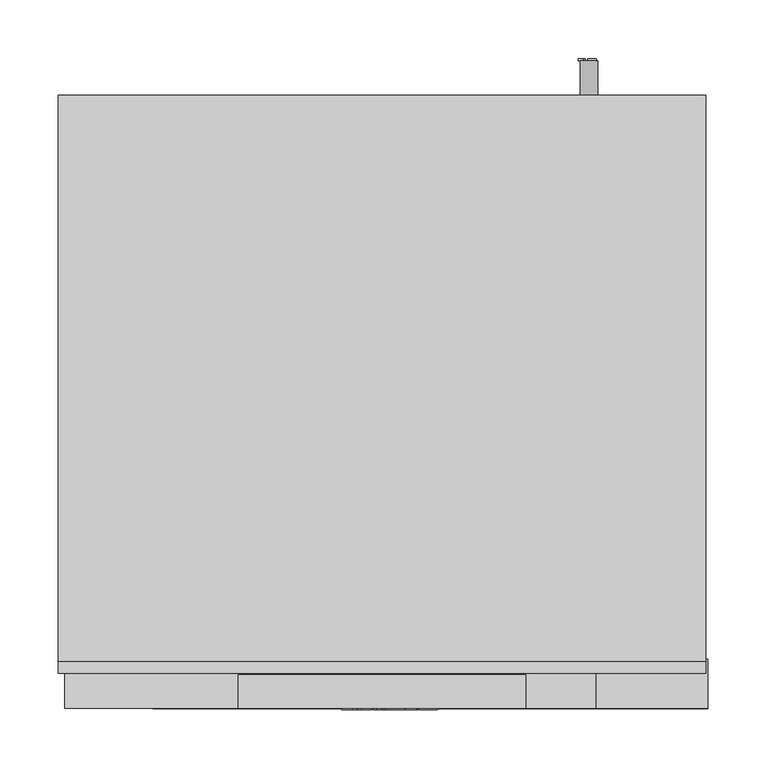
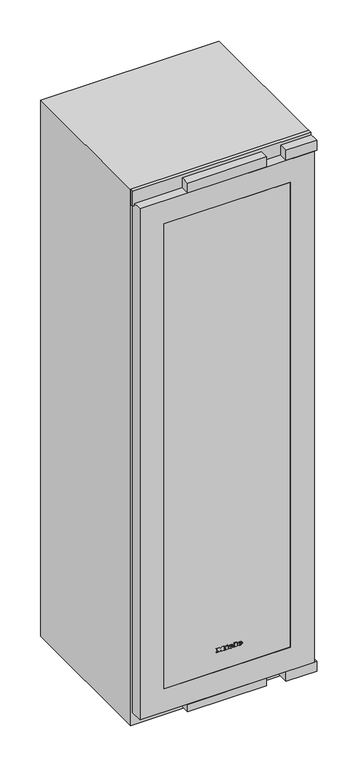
"""IFC4 building model written with IfcOpenShell, lengths in millimetres: proxy geometry, 11329860_USA_KWT6722iS : 36672200_USA_11329860_KWT6722iS."""

from ifc_helpers import new_model, si_unit, point, frame, frame_2d, origin, place, context, project, spatial, polyline, circle_curve, ellipse_curve, trimmed, segment, composite_curve, outline, extrude, faceted_brep, source, transform, mapped, element, save
from ifc_brep_helpers import plane_surface, cylinder_surface, revolved_surface, extruded_surface, advanced_brep


def specialty_equipment_b929a7a0(model_context):
    return source(origin(), model_context, "Body", "SolidModel", [
        faceted_brep([(-205.0, 407.167453, 1194.5725635), (-205.0, 72.832547, 1194.5725635), (-175.0, 72.832547, 1194.5725635), (-175.0, 85.2096606, 1194.5725635), (-140.0, 85.2096606, 1194.5725635), (-140.0, 72.832547, 1194.5725635), (-110.0, 72.832547, 1194.5725635), (-110.0, 407.167453, 1194.5725635), (-140.0, 407.167453, 1194.5725635), (-140.0, 395.167453, 1194.5725635), (-175.0, 395.167453, 1194.5725635), (-175.0, 407.167453, 1194.5725635), (-110.0, 407.167453, 1179.5725635), (-110.0, 72.832547, 1179.5725635), (-205.0, 72.832547, 1179.5725635), (-205.0, 407.167453, 1179.5725635), (-175.0, 407.167453, 1409.5725635), (-140.0, 407.167453, 1409.5725635), (-140.0, 72.832547, 1409.5725635), (-175.0, 72.832547, 1409.5725635), (-175.0, 395.167453, 1409.5725635), (-165.0, 395.167453, 1409.5725635), (-165.0, 85.2096606, 1409.5725635), (-175.0, 85.2096606, 1409.5725635), (-140.0, 85.2096606, 1409.5725635), (-158.7040205, 85.2096606, 1409.5725635), (-158.7040205, 395.167453, 1409.5725635), (-140.0, 395.167453, 1409.5725635), (-158.7040205, 395.167453, 1359.5725635), (-140.0, 395.167453, 1359.5725635), (-140.0, 395.167453, 1349.5725635), (-165.0, 395.167453, 1349.5725635), (-140.0, 85.2096606, 1359.5725635), (-140.0, 85.2096606, 1349.5725635), (-158.7040205, 85.2096606, 1359.5725635), (-165.0, 85.2096606, 1349.5725635)], [[[0, 1, 2, 3, 4, 5, 6, 7, 8, 9, 10, 11]], [[12, 13, 14, 15]], [[12, 15, 0, 11, 16, 17, 8, 7]], [[1, 0, 15, 14]], [[14, 13, 6, 5, 18, 19, 2, 1]], [[7, 6, 13, 12]], [[17, 16, 20, 21, 22, 23, 19, 18, 24, 25, 26, 27]], [[20, 16, 11, 10]], [[27, 26, 28, 29]], [[20, 10, 9, 30, 31, 21]], [[17, 27, 29, 32, 24, 18, 5, 4, 33, 30, 9, 8]], [[19, 23, 3, 2]], [[25, 24, 32, 34]], [[3, 23, 22, 35, 33, 4]], [[26, 25, 34, 28]], [[35, 31, 30, 33]], [[22, 21, 31, 35]], [[32, 29, 28, 34]]]),
        faceted_brep([(-230.0, 430.0, 1179.5725635), (-230.0, 50.0, 1179.5725635), (230.0, 50.0, 1179.5725635), (230.0, 430.0, 1179.5725635), (73.0, 428.5, 1179.5725635), (186.0, 428.5, 1179.5725635), (186.0, 348.5, 1179.5725635), (73.0, 348.5, 1179.5725635), (73.0, 331.0, 1179.5725635), (186.0, 331.0, 1179.5725635), (186.0, 249.0, 1179.5725635), (73.0, 249.0, 1179.5725635), (73.0, 231.0, 1179.5725635), (186.0, 231.0, 1179.5725635), (186.0, 151.0, 1179.5725635), (73.0, 151.0, 1179.5725635), (73.0, 133.0, 1179.5725635), (186.0, 133.0, 1179.5725635), (186.0, 53.0, 1179.5725635), (73.0, 53.0, 1179.5725635), (230.0, 430.0, 1170.0), (230.0, 50.0, 1170.0), (194.0, 50.0, 1170.0), (194.0, 430.0, 1170.0), (-230.0, 50.0, 1170.0), (-230.0, 430.0, 1170.0), (65.0, 430.0, 1170.0), (65.0, 50.0, 1170.0), (-230.0, 440.0, 1187.9661502), (230.0, 440.0, 1187.9661502), (230.0, 440.0, 1184.9661502), (-230.0, 440.0, 1184.9661502), (194.0, 440.0, 1101.0), (65.0, 440.0, 1101.0), (65.0, 440.0, 1161.9661502), (-230.0, 440.0, 1161.9661502), (-230.0, 440.0, 1164.9661502), (230.0, 440.0, 1164.9661502), (230.0, 440.0, 1161.9661502), (194.0, 440.0, 1161.9661502), (-230.0, 430.0, 1161.9661502), (-230.0, 50.0, 1161.9661502), (-230.0, 40.0, 1161.9661502), (-230.0, 40.0, 1164.9661502), (-230.0, 40.5645722, 1164.9661502), (-230.0, 40.5645722, 1184.9661502), (-230.0, 40.0, 1184.9661502), (-230.0, 40.0, 1187.9661502), (-230.0, 50.0, 1187.9661502), (-230.0, 430.0, 1187.9661502), (-230.0, 439.0, 1184.9661502), (-230.0, 439.0, 1164.9661502), (230.0, 40.0, 1187.9661502), (230.0, 40.0, 1184.9661502), (65.0, 40.0, 1101.0), (194.0, 40.0, 1101.0), (194.0, 40.0, 1161.9661502), (230.0, 40.0, 1161.9661502), (230.0, 40.0, 1164.9661502), (65.0, 40.0, 1161.9661502), (230.0, 430.0, 1187.9661502), (230.0, 50.0, 1187.9661502), (230.0, 40.5645722, 1184.9661502), (230.0, 40.5645722, 1164.9661502), (230.0, 50.0, 1161.9661502), (230.0, 430.0, 1161.9661502), (230.0, 439.0, 1164.9661502), (230.0, 439.0, 1184.9661502), (65.0, 430.0, 1161.9661502), (194.0, 430.0, 1161.9661502), (65.0, 50.0, 1161.9661502), (194.0, 50.0, 1161.9661502), (186.0, 428.5, 1128.9654333), (73.0, 428.5, 1128.9654333), (73.0, 348.5, 1128.9654333), (186.0, 348.5, 1128.9654333), (186.0, 331.0, 1128.9654333), (73.0, 331.0, 1128.9654333), (73.0, 249.0, 1128.9654333), (186.0, 249.0, 1128.9654333), (186.0, 231.0, 1128.9654333), (73.0, 231.0, 1128.9654333), (73.0, 151.0, 1128.9654333), (186.0, 151.0, 1128.9654333), (186.0, 133.0, 1128.9654333), (73.0, 133.0, 1128.9654333), (73.0, 53.0, 1128.9654333), (186.0, 53.0, 1128.9654333)], [[[0, 1, 2, 3], [4, 5, 6, 7], [8, 9, 10, 11], [12, 13, 14, 15], [16, 17, 18, 19]], [[20, 21, 22, 23]], [[24, 25, 26, 27]], [[28, 29, 30, 31]], [[32, 33, 34, 35, 36, 37, 38, 39]], [[35, 40, 25, 24, 41, 42, 43, 44, 45, 46, 47, 48, 1, 0, 49, 28, 31, 50, 51, 36]], [[52, 47, 46, 53]], [[54, 55, 56, 57, 58, 43, 42, 59]], [[29, 60, 3, 2, 61, 52, 53, 62, 63, 58, 57, 64, 21, 20, 65, 38, 37, 66, 67, 30]], [[60, 29, 28, 49]], [[25, 40, 68, 26]], [[65, 20, 23, 69]], [[60, 49, 0, 3]], [[40, 35, 34, 68]], [[38, 65, 69, 39]], [[52, 61, 48, 47]], [[42, 41, 70, 59]], [[64, 57, 56, 71]], [[41, 24, 27, 70]], [[21, 64, 71, 22]], [[48, 61, 2, 1]], [[54, 33, 32, 55]], [[33, 54, 59, 70, 27, 26, 68, 34]], [[55, 32, 39, 69, 23, 22, 71, 56]], [[72, 73, 74, 75]], [[76, 77, 78, 79]], [[80, 81, 82, 83]], [[84, 85, 86, 87]], [[73, 72, 5, 4]], [[74, 73, 4, 7]], [[75, 74, 7, 6]], [[72, 75, 6, 5]], [[77, 76, 9, 8]], [[78, 77, 8, 11]], [[79, 78, 11, 10]], [[76, 79, 10, 9]], [[81, 80, 13, 12]], [[82, 81, 12, 15]], [[83, 82, 15, 14]], [[80, 83, 14, 13]], [[85, 84, 17, 16]], [[86, 85, 16, 19]], [[87, 86, 19, 18]], [[84, 87, 18, 17]], [[62, 45, 44, 63]], [[45, 62, 53, 46]], [[63, 44, 43, 58]], [[66, 51, 50, 67]], [[51, 66, 37, 36]], [[67, 50, 31, 30]]]),
        advanced_brep(
        [(38.5659113, -1.0, 182.5474288), (38.5659113, -1.0, 183.9109288), (47.5974113, -1.0, 183.9109288), (31.8834113, -1.0, 183.9109288), (35.5959113, -1.0, 179.3479288), (47.3679113, -1.0, 182.5474288), (43.2909113, -1.0, 182.5474288), (40.0779113, -1.0, 181.0354288), (38.5659113, -1.0, 185.6389288), (38.5659113, -1.0, 187.1104288), (40.8744113, -1.0, 187.1104288), (40.8744113, -1.0, 185.6389288), (38.5659113, 0.0, 182.5474288), (40.0779113, 0.0, 181.0354288), (43.2909113, 0.0, 182.5474288), (47.3679113, 0.0, 182.5474288), (35.5959113, 0.0, 179.3479288), (31.8834113, 0.0, 183.9109288), (47.5974113, 0.0, 183.9109288), (38.5659113, 0.0, 183.9109288), (38.5659113, 0.0, 185.6389288), (40.8744113, 0.0, 185.6389288), (40.8744113, 0.0, 187.1104288), (38.5659113, 0.0, 187.1104288)],
        [
            (0, 1),
            (1, 2),
            (2, 3, ellipse_curve(frame((39.7404113, -1.0, 183.9109288), z_axis=(0.0, -1.0, 0.0), x_axis=(-1.0, 0.0, 0.0)), 7.857, 6.4935)),
            (3, 4, circle_curve(frame((37.1079849, -1.0, 184.3699288), z_axis=(0.0, -1.0, 0.0), x_axis=(0.0, 0.0, -1.0)), 5.2446974)),
            (4, 5, circle_curve(frame((39.5831254, -1.0, 187.9339288), z_axis=(0.0, -1.0, 0.0), x_axis=(0.0, 0.0, -1.0)), 9.46664)),
            (5, 6),
            (6, 7, circle_curve(frame((40.737823, -1.0, 183.8029288), z_axis=(0.0, 1.0, 0.0), x_axis=(0.0, 0.0, -1.0)), 2.8450905)),
            (7, 0, circle_curve(frame((40.0779113, -1.0, 182.5474288), z_axis=(0.0, 1.0, 0.0), x_axis=(0.0, 0.0, -1.0)), 1.512)),
            (8, 9),
            (9, 10, circle_curve(frame((39.7201613, -1.0, 187.1104288), z_axis=(0.0, 1.0, 0.0), x_axis=(0.0, 0.0, -1.0)), 1.15425)),
            (10, 11),
            (11, 8),
            (12, 13, circle_curve(frame((40.0779113, 0.0, 182.5474288), z_axis=(0.0, -1.0, 0.0), x_axis=(0.0, 0.0, -1.0)), 1.512)),
            (13, 14, circle_curve(frame((40.737823, 0.0, 183.8029288), z_axis=(0.0, -1.0, 0.0), x_axis=(0.0, 0.0, -1.0)), 2.8450905)),
            (14, 15),
            (15, 16, circle_curve(frame((39.5831254, 0.0, 187.9339288), z_axis=(0.0, 1.0, 0.0), x_axis=(0.0, 0.0, -1.0)), 9.46664)),
            (16, 17, circle_curve(frame((37.1079849, 0.0, 184.3699288), z_axis=(0.0, 1.0, 0.0), x_axis=(0.0, 0.0, -1.0)), 5.2446974)),
            (17, 18, ellipse_curve(frame((39.7404113, 0.0, 183.9109288), z_axis=(0.0, 1.0, 0.0), x_axis=(-1.0, 0.0, 0.0)), 7.857, 6.4935)),
            (18, 19),
            (19, 12),
            (20, 21),
            (21, 22),
            (22, 23, circle_curve(frame((39.7201613, 0.0, 187.1104288), z_axis=(0.0, -1.0, 0.0), x_axis=(0.0, 0.0, -1.0)), 1.15425)),
            (23, 20),
            (0, 12),
            (19, 1),
            (18, 2),
            (5, 15),
            (14, 6),
            (17, 3),
            (13, 7),
            (16, 4),
            (8, 20),
            (23, 9),
            (22, 10),
            (21, 11),
        ],
        [
            plane_surface(frame((38.5659113, -1.0, 183.9109288), z_axis=(0.0, -1.0, 0.0), x_axis=(0.0, 0.0, 1.0))),
            plane_surface(frame((38.5659113, 0.0, 183.9109288), z_axis=(0.0, 1.0, 0.0), x_axis=(0.0, 0.0, -1.0))),
            plane_surface(frame((38.5659113, -1.0, 182.5474288), z_axis=(1.0, 0.0, 0.0), x_axis=(0.0, 1.0, 0.0))),
            plane_surface(frame((38.5659113, -1.0, 183.9109288), z_axis=(0.0, 0.0, -1.0), x_axis=(0.0, 1.0, 0.0))),
            plane_surface(frame((47.3679113, -1.0, 182.5474288), z_axis=(0.0, 0.0, 1.0), x_axis=(0.0, 1.0, 0.0))),
            extruded_surface(trimmed(ellipse_curve(frame((39.7404113, 1.0, 183.9109288), z_axis=(0.0, -1.0, 0.0), x_axis=(-1.0, 0.0, 0.0)), 7.857, 6.4935), [point((47.5974113, 1.0, 183.9109288))], [point((31.8834113, 1.0, 183.9109288))], True, "CARTESIAN"), (0.0, -1.0, 0.0), 1.0),
            revolved_surface(polyline([(40.737823, 0.0, 180.9578383), (40.737823, -1.0, 180.9578383)]), (40.737823, 0.0, 183.8029288), (0.0, 1.0, 0.0)),
            revolved_surface(polyline([(40.0779113, 0.0, 181.0354288), (40.0779113, -1.0, 181.0354288)]), (40.0779113, 0.0, 182.5474288), (0.0, 1.0, 0.0)),
            cylinder_surface(frame((37.1079849, 0.0, 184.3699288), z_axis=(0.0, -1.0, 0.0), x_axis=(0.0, 0.0, -1.0)), 5.2446974),
            cylinder_surface(frame((39.5831254, 0.0, 187.9339288), z_axis=(0.0, -1.0, 0.0), x_axis=(0.0, 0.0, -1.0)), 9.46664),
            plane_surface(frame((38.5659113, -1.0, 185.6389288), z_axis=(1.0, 0.0, 0.0), x_axis=(0.0, 1.0, 0.0))),
            revolved_surface(polyline([(39.7201613, 0.0, 185.9561788), (39.7201613, -1.0, 185.9561788)]), (39.7201613, 0.0, 187.1104288), (0.0, 1.0, 0.0)),
            plane_surface(frame((40.8744113, -1.0, 187.1104288), z_axis=(-1.0, 0.0, 0.0), x_axis=(0.0, 1.0, 0.0))),
            plane_surface(frame((40.8744113, -1.0, 185.6389288), z_axis=(0.0, 0.0, 1.0), x_axis=(0.0, 1.0, 0.0))),
        ],
        [
            (0, [[1, 2, 3, 4, 5, 6, 7, 8], [9, 10, 11, 12]]),
            (1, [[13, 14, 15, 16, 17, 18, 19, 20], [21, 22, 23, 24]]),
            (2, [[-1, 25, -20, 26]]),
            (3, [[-2, -26, -19, 27]]),
            (4, [[-6, 28, -15, 29]]),
            (5, [[-3, -27, -18, 30]]),
            (6, [[-7, -29, -14, 31]]),
            (7, [[-8, -31, -13, -25]]),
            (8, [[-4, -30, -17, 32]]),
            (9, [[-5, -32, -16, -28]]),
            (10, [[-9, 33, -24, 34]]),
            (11, [[-10, -34, -23, 35]]),
            (12, [[-11, -35, -22, 36]]),
            (13, [[-12, -36, -21, -33]]),
        ],
    ),
        advanced_brep(
        [(10.3914113, -1.0, 182.5474288), (10.3914113, -1.0, 183.9109288), (19.4229113, -1.0, 183.9109288), (3.7089113, -1.0, 183.9109288), (7.4214113, -1.0, 179.3479288), (19.1934113, -1.0, 182.5474288), (15.1164113, -1.0, 182.5474288), (11.9034113, -1.0, 181.0354288), (10.3914113, -1.0, 185.6389288), (10.3914113, -1.0, 187.1104288), (12.6999113, -1.0, 187.1104288), (12.6999113, -1.0, 185.6389288), (10.3914113, 0.0, 182.5474288), (11.9034113, 0.0, 181.0354288), (15.1164113, 0.0, 182.5474288), (19.1934113, 0.0, 182.5474288), (7.4214113, 0.0, 179.3479288), (3.7089113, 0.0, 183.9109288), (19.4229113, 0.0, 183.9109288), (10.3914113, 0.0, 183.9109288), (10.3914113, 0.0, 185.6389288), (12.6999113, 0.0, 185.6389288), (12.6999113, 0.0, 187.1104288), (10.3914113, 0.0, 187.1104288)],
        [
            (0, 1),
            (1, 2),
            (2, 3, ellipse_curve(frame((11.5659113, -1.0, 183.9109288), z_axis=(0.0, -1.0, 0.0), x_axis=(-1.0, 0.0, 0.0)), 7.857, 6.4935)),
            (3, 4, circle_curve(frame((8.9334849, -1.0, 184.3699288), z_axis=(0.0, -1.0, 0.0), x_axis=(0.0, 0.0, -1.0)), 5.2446974)),
            (4, 5, circle_curve(frame((11.4086254, -1.0, 187.9339288), z_axis=(0.0, -1.0, 0.0), x_axis=(0.0, 0.0, -1.0)), 9.46664)),
            (5, 6),
            (6, 7, circle_curve(frame((12.563323, -1.0, 183.8029288), z_axis=(0.0, 1.0, 0.0), x_axis=(0.0, 0.0, -1.0)), 2.8450905)),
            (7, 0, circle_curve(frame((11.9034113, -1.0, 182.5474288), z_axis=(0.0, 1.0, 0.0), x_axis=(0.0, 0.0, -1.0)), 1.512)),
            (8, 9),
            (9, 10, circle_curve(frame((11.5456613, -1.0, 187.1104288), z_axis=(0.0, 1.0, 0.0), x_axis=(0.0, 0.0, -1.0)), 1.15425)),
            (10, 11),
            (11, 8),
            (12, 13, circle_curve(frame((11.9034113, 0.0, 182.5474288), z_axis=(0.0, -1.0, 0.0), x_axis=(0.0, 0.0, -1.0)), 1.512)),
            (13, 14, circle_curve(frame((12.563323, 0.0, 183.8029288), z_axis=(0.0, -1.0, 0.0), x_axis=(0.0, 0.0, -1.0)), 2.8450905)),
            (14, 15),
            (15, 16, circle_curve(frame((11.4086254, 0.0, 187.9339288), z_axis=(0.0, 1.0, 0.0), x_axis=(0.0, 0.0, -1.0)), 9.46664)),
            (16, 17, circle_curve(frame((8.9334849, 0.0, 184.3699288), z_axis=(0.0, 1.0, 0.0), x_axis=(0.0, 0.0, -1.0)), 5.2446974)),
            (17, 18, ellipse_curve(frame((11.5659113, 0.0, 183.9109288), z_axis=(0.0, 1.0, 0.0), x_axis=(-1.0, 0.0, 0.0)), 7.857, 6.4935)),
            (18, 19),
            (19, 12),
            (20, 21),
            (21, 22),
            (22, 23, circle_curve(frame((11.5456613, 0.0, 187.1104288), z_axis=(0.0, -1.0, 0.0), x_axis=(0.0, 0.0, -1.0)), 1.15425)),
            (23, 20),
            (0, 12),
            (19, 1),
            (18, 2),
            (5, 15),
            (14, 6),
            (17, 3),
            (13, 7),
            (16, 4),
            (8, 20),
            (23, 9),
            (22, 10),
            (21, 11),
        ],
        [
            plane_surface(frame((10.3914113, -1.0, 183.9109288), z_axis=(0.0, -1.0, 0.0), x_axis=(0.0, 0.0, 1.0))),
            plane_surface(frame((10.3914113, 0.0, 183.9109288), z_axis=(0.0, 1.0, 0.0), x_axis=(0.0, 0.0, -1.0))),
            plane_surface(frame((10.3914113, -1.0, 182.5474288), z_axis=(1.0, 0.0, 0.0), x_axis=(0.0, 1.0, 0.0))),
            plane_surface(frame((10.3914113, -1.0, 183.9109288), z_axis=(0.0, 0.0, -1.0), x_axis=(0.0, 1.0, 0.0))),
            plane_surface(frame((19.1934113, -1.0, 182.5474288), z_axis=(0.0, 0.0, 1.0), x_axis=(0.0, 1.0, 0.0))),
            extruded_surface(trimmed(ellipse_curve(frame((11.5659113, 1.0, 183.9109288), z_axis=(0.0, -1.0, 0.0), x_axis=(-1.0, 0.0, 0.0)), 7.857, 6.4935), [point((19.4229113, 1.0, 183.9109288))], [point((3.7089113, 1.0, 183.9109288))], True, "CARTESIAN"), (0.0, -1.0, 0.0), 1.0),
            revolved_surface(polyline([(12.563323, 0.0, 180.9578383), (12.563323, -1.0, 180.9578383)]), (12.563323, 0.0, 183.8029288), (0.0, 1.0, 0.0)),
            revolved_surface(polyline([(11.9034113, 0.0, 181.0354288), (11.9034113, -1.0, 181.0354288)]), (11.9034113, 0.0, 182.5474288), (0.0, 1.0, 0.0)),
            cylinder_surface(frame((8.9334849, 0.0, 184.3699288), z_axis=(0.0, -1.0, 0.0), x_axis=(0.0, 0.0, -1.0)), 5.2446974),
            cylinder_surface(frame((11.4086254, 0.0, 187.9339288), z_axis=(0.0, -1.0, 0.0), x_axis=(0.0, 0.0, -1.0)), 9.46664),
            plane_surface(frame((10.3914113, -1.0, 185.6389288), z_axis=(1.0, 0.0, 0.0), x_axis=(0.0, 1.0, 0.0))),
            revolved_surface(polyline([(11.5456613, 0.0, 185.9561788), (11.5456613, -1.0, 185.9561788)]), (11.5456613, 0.0, 187.1104288), (0.0, 1.0, 0.0)),
            plane_surface(frame((12.6999113, -1.0, 187.1104288), z_axis=(-1.0, 0.0, 0.0), x_axis=(0.0, 1.0, 0.0))),
            plane_surface(frame((12.6999113, -1.0, 185.6389288), z_axis=(0.0, 0.0, 1.0), x_axis=(0.0, 1.0, 0.0))),
        ],
        [
            (0, [[1, 2, 3, 4, 5, 6, 7, 8], [9, 10, 11, 12]]),
            (1, [[13, 14, 15, 16, 17, 18, 19, 20], [21, 22, 23, 24]]),
            (2, [[-1, 25, -20, 26]]),
            (3, [[-2, -26, -19, 27]]),
            (4, [[-6, 28, -15, 29]]),
            (5, [[-3, -27, -18, 30]]),
            (6, [[-7, -29, -14, 31]]),
            (7, [[-8, -31, -13, -25]]),
            (8, [[-4, -30, -17, 32]]),
            (9, [[-5, -32, -16, -28]]),
            (10, [[-9, 33, -24, 34]]),
            (11, [[-10, -34, -23, 35]]),
            (12, [[-11, -35, -22, 36]]),
            (13, [[-12, -36, -21, -33]]),
        ],
    ),
        extrude(outline(polyline([(192.0514288, -4.3640887), (189.8644288, -3.3380887), (191.9974288, 1.2384113), (194.1844288, 0.2259113), (192.0514288, -4.3640887)])), frame((0.0, -1.0, 0.0), z_axis=(0.0, 1.0, 0.0), x_axis=(0.0, 0.0, 1.0)), (0.0, 0.0, 1.0), 1.0),
        extrude(outline(polyline([(189.5674288, -7.6985887), (187.1509288, -7.6985887), (187.1509288, -6.0920887), (181.6159288, -6.0920887), (181.6159288, -7.6985887), (179.3479288, -7.6985887), (179.3479288, 2.9529113), (181.6159288, 2.9529113), (181.6159288, 1.3869113), (189.5674288, 1.3869113), (189.5674288, -7.6985887)])), frame((0.0, -1.0, 0.0), z_axis=(0.0, 1.0, 0.0), x_axis=(0.0, 0.0, 1.0)), (0.0, 0.0, 1.0), 1.0),
        extrude(outline(polyline([(190.6474288, 20.1789113), (190.6474288, 21.7989113), (181.6159288, 21.7989113), (181.6159288, 20.1789113), (179.3479288, 20.1789113), (179.3479288, 31.1274113), (181.6159288, 31.1274113), (181.6159288, 29.4669113), (192.8479288, 29.4669113), (192.8479288, 20.1789113), (190.6474288, 20.1789113)])), frame((0.0, -1.0, 0.0), z_axis=(0.0, 1.0, 0.0), x_axis=(0.0, 0.0, 1.0)), (0.0, 0.0, 1.0), 1.0),
        extrude(outline(polyline([(190.6474288, -34.6040887), (190.6474288, -32.9705887), (181.6159288, -32.9705887), (181.6159288, -34.6040887), (179.3479288, -34.6040887), (179.3479288, -28.6640887), (181.6159288, -28.6640887), (181.6159288, -30.2840887), (187.3235535, -30.2840887), (179.3479288, -24.2495887), (187.6006511, -18.1880887), (181.6159288, -18.1880887), (181.6159288, -19.8485887), (179.3479288, -19.8485887), (179.3479288, -9.0755887), (181.6159288, -9.0755887), (181.6159288, -10.7900887), (190.6474288, -10.7900887), (190.6474288, -9.0755887), (192.8479288, -9.0755887), (192.8479288, -17.2970887), (187.7854288, -21.2390887), (192.8479288, -25.1945887), (192.8479288, -34.6040887), (190.6474288, -34.6040887)])), frame((0.0, -1.0, 0.0), z_axis=(0.0, 1.0, 0.0), x_axis=(0.0, 0.0, 1.0)), (0.0, 0.0, 1.0), 1.0),
        extrude(outline(polyline([(0.0, -5.0), (0.0, 0.0), (342.0, 0.0), (342.0, -5.0), (0.0, -5.0)])), frame((171.0, 49.1703709, 967.2940952), z_axis=(0.0, 0.2588190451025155, 0.9659258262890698), x_axis=(-1.0, 0.0, 0.0)), (0.0, 0.0, 1.0), 48.0),
        extrude(outline(composite_curve([segment(trimmed(circle_curve(frame_2d((52.0, 178.0)), 7.5), [point((52.0, 185.5))], [point((52.0, 170.5))], False, "CARTESIAN"), True, "CONTINUOUS"), segment(trimmed(circle_curve(frame_2d((52.0, 178.0)), 7.5), [point((52.0, 170.5))], [point((52.0, 185.5))], False, "CARTESIAN"), True, "CONTINUOUS")], self_intersect=False)), frame((0.0, 527.0, 0.0), z_axis=(0.0, 1.0, 0.0), x_axis=(0.0, 0.0, 1.0)), (0.0, 0.0, 1.0), 30.0),
        faceted_brep([(278.5, 527.0, 1769.0), (-278.5, 527.0, 1769.0), (-278.5, 40.0, 1769.0), (278.5, 40.0, 1769.0), (278.5, 527.0, 0.0), (278.5, 40.0, 0.0), (-278.5, 40.0, 0.0), (-278.5, 527.0, 0.0), (-230.0, 40.0, 1680.0), (230.0, 40.0, 1680.0), (230.0, 40.0, 80.0), (-230.0, 40.0, 80.0), (230.0, 440.0, 1680.0), (-230.0, 440.0, 1680.0), (-230.0, 440.0, 80.0), (230.0, 440.0, 80.0)], [[[0, 1, 2, 3]], [[4, 5, 6, 7]], [[1, 0, 4, 7]], [[2, 1, 7, 6]], [[3, 2, 6, 5], [8, 9, 10, 11]], [[0, 3, 5, 4]], [[12, 13, 14, 15]], [[13, 12, 9, 8]], [[14, 13, 8, 11]], [[15, 14, 11, 10]], [[12, 15, 10, 9]]]),
        extrude(outline(polyline([(230.0, 319.0), (-230.0, 319.0), (-230.0, 440.0), (230.0, 440.0), (230.0, 319.0)])), frame((0.0, 0.0, 80.0), z_axis=(0.0, 0.0, 1.0), x_axis=(1.0, 0.0, 0.0)), (0.0, 0.0, 1.0), 205.0),
        extrude(outline(polyline([(47.2618945, 184.0941573), (57.3075256, 184.0941573), (57.3075256, 176.87386), (56.0518217, 176.87386), (56.0518217, 182.8384535), (53.069525, 182.8384535), (53.069525, 177.187786), (51.8138211, 177.187786), (51.8138211, 182.8384535), (48.5175984, 182.8384535), (48.5175984, 176.7168971), (47.2618945, 176.7168971), (47.2618945, 184.0941573)])), frame((0.0, 557.0, 0.0), z_axis=(0.0, 1.0, 0.0), x_axis=(0.0, 0.0, 1.0)), (0.0, 0.0, 1.0), 2.0),
        extrude(outline(polyline([(47.2618945, 174.8333412), (57.3075256, 174.8333412), (57.3075256, 173.5776374), (48.5175984, 173.5776374), (48.5175984, 168.5548219), (47.2618945, 168.5548219), (47.2618945, 174.8333412)])), frame((0.0, 557.0, 0.0), z_axis=(0.0, 1.0, 0.0), x_axis=(0.0, 0.0, 1.0)), (0.0, 0.0, 1.0), 2.0),
        extrude(outline(polyline([(-278.5, 40.0), (278.5, 40.0), (278.5, 30.0), (-278.5, 30.0), (-278.5, 40.0)])), frame((0.0, 0.0, 1720.0), z_axis=(0.0, 0.0, 1.0), x_axis=(1.0, 0.0, 0.0)), (0.0, 0.0, 1.0), 50.0),
        extrude(outline(polyline([(10.0, 47.0438353), (-10.0, 47.0438353), (-10.0, 440.0), (10.0, 440.0), (10.0, 47.0438353)])), frame((0.0, 0.0, 373.0), z_axis=(0.0, 0.0, 1.0), x_axis=(1.0, 0.0, 0.0)), (0.0, 0.0, 1.0), 10.0),
        extrude(outline(polyline([(-40.0, 47.0438353), (-60.0, 47.0438353), (-60.0, 440.0), (-40.0, 440.0), (-40.0, 47.0438353)])), frame((0.0, 0.0, 373.0), z_axis=(0.0, 0.0, 1.0), x_axis=(1.0, 0.0, 0.0)), (0.0, 0.0, 1.0), 10.0),
        extrude(outline(polyline([(-90.0, 47.0438353), (-110.0, 47.0438353), (-110.0, 440.0), (-90.0, 440.0), (-90.0, 47.0438353)])), frame((0.0, 0.0, 373.0), z_axis=(0.0, 0.0, 1.0), x_axis=(1.0, 0.0, 0.0)), (0.0, 0.0, 1.0), 10.0),
        extrude(outline(polyline([(-140.0, 47.0438353), (-160.0, 47.0438353), (-160.0, 440.0), (-140.0, 440.0), (-140.0, 47.0438353)])), frame((0.0, 0.0, 373.0), z_axis=(0.0, 0.0, 1.0), x_axis=(1.0, 0.0, 0.0)), (0.0, 0.0, 1.0), 10.0),
        extrude(outline(polyline([(-190.0, 47.0438353), (-210.0, 47.0438353), (-210.0, 440.0), (-190.0, 440.0), (-190.0, 47.0438353)])), frame((0.0, 0.0, 373.0), z_axis=(0.0, 0.0, 1.0), x_axis=(1.0, 0.0, 0.0)), (0.0, 0.0, 1.0), 10.0),
        extrude(outline(polyline([(60.0, 47.0438353), (40.0, 47.0438353), (40.0, 440.0), (60.0, 440.0), (60.0, 47.0438353)])), frame((0.0, 0.0, 373.0), z_axis=(0.0, 0.0, 1.0), x_axis=(1.0, 0.0, 0.0)), (0.0, 0.0, 1.0), 10.0),
        extrude(outline(polyline([(110.0, 47.0438353), (90.0, 47.0438353), (90.0, 440.0), (110.0, 440.0), (110.0, 47.0438353)])), frame((0.0, 0.0, 373.0), z_axis=(0.0, 0.0, 1.0), x_axis=(1.0, 0.0, 0.0)), (0.0, 0.0, 1.0), 10.0),
        extrude(outline(polyline([(160.0, 47.0438353), (140.0, 47.0438353), (140.0, 440.0), (160.0, 440.0), (160.0, 47.0438353)])), frame((0.0, 0.0, 373.0), z_axis=(0.0, 0.0, 1.0), x_axis=(1.0, 0.0, 0.0)), (0.0, 0.0, 1.0), 10.0),
        extrude(outline(polyline([(210.0, 47.0438353), (190.0, 47.0438353), (190.0, 440.0), (210.0, 440.0), (210.0, 47.0438353)])), frame((0.0, 0.0, 373.0), z_axis=(0.0, 0.0, 1.0), x_axis=(1.0, 0.0, 0.0)), (0.0, 0.0, 1.0), 10.0),
        extrude(outline(polyline([(10.0, 47.0438353), (-10.0, 47.0438353), (-10.0, 440.0), (10.0, 440.0), (10.0, 47.0438353)])), frame((0.0, 0.0, 533.0), z_axis=(0.0, 0.0, 1.0), x_axis=(1.0, 0.0, 0.0)), (0.0, 0.0, 1.0), 10.0),
        extrude(outline(polyline([(-40.0, 47.0438353), (-60.0, 47.0438353), (-60.0, 440.0), (-40.0, 440.0), (-40.0, 47.0438353)])), frame((0.0, 0.0, 533.0), z_axis=(0.0, 0.0, 1.0), x_axis=(1.0, 0.0, 0.0)), (0.0, 0.0, 1.0), 10.0),
        extrude(outline(polyline([(-90.0, 47.0438353), (-110.0, 47.0438353), (-110.0, 440.0), (-90.0, 440.0), (-90.0, 47.0438353)])), frame((0.0, 0.0, 533.0), z_axis=(0.0, 0.0, 1.0), x_axis=(1.0, 0.0, 0.0)), (0.0, 0.0, 1.0), 10.0),
        extrude(outline(polyline([(-140.0, 47.0438353), (-160.0, 47.0438353), (-160.0, 440.0), (-140.0, 440.0), (-140.0, 47.0438353)])), frame((0.0, 0.0, 533.0), z_axis=(0.0, 0.0, 1.0), x_axis=(1.0, 0.0, 0.0)), (0.0, 0.0, 1.0), 10.0),
        extrude(outline(polyline([(-190.0, 47.0438353), (-210.0, 47.0438353), (-210.0, 440.0), (-190.0, 440.0), (-190.0, 47.0438353)])), frame((0.0, 0.0, 533.0), z_axis=(0.0, 0.0, 1.0), x_axis=(1.0, 0.0, 0.0)), (0.0, 0.0, 1.0), 10.0),
        extrude(outline(polyline([(60.0, 47.0438353), (40.0, 47.0438353), (40.0, 440.0), (60.0, 440.0), (60.0, 47.0438353)])), frame((0.0, 0.0, 533.0), z_axis=(0.0, 0.0, 1.0), x_axis=(1.0, 0.0, 0.0)), (0.0, 0.0, 1.0), 10.0),
        extrude(outline(polyline([(110.0, 47.0438353), (90.0, 47.0438353), (90.0, 440.0), (110.0, 440.0), (110.0, 47.0438353)])), frame((0.0, 0.0, 533.0), z_axis=(0.0, 0.0, 1.0), x_axis=(1.0, 0.0, 0.0)), (0.0, 0.0, 1.0), 10.0),
        extrude(outline(polyline([(160.0, 47.0438353), (140.0, 47.0438353), (140.0, 440.0), (160.0, 440.0), (160.0, 47.0438353)])), frame((0.0, 0.0, 533.0), z_axis=(0.0, 0.0, 1.0), x_axis=(1.0, 0.0, 0.0)), (0.0, 0.0, 1.0), 10.0),
        extrude(outline(polyline([(210.0, 47.0438353), (190.0, 47.0438353), (190.0, 440.0), (210.0, 440.0), (210.0, 47.0438353)])), frame((0.0, 0.0, 533.0), z_axis=(0.0, 0.0, 1.0), x_axis=(1.0, 0.0, 0.0)), (0.0, 0.0, 1.0), 10.0),
        extrude(outline(polyline([(10.0, 44.8678355), (-10.0, 44.8678355), (-10.0, 319.0), (10.0, 319.0), (10.0, 44.8678355)])), frame((0.0, 0.0, 97.0), z_axis=(0.0, 0.0, 1.0), x_axis=(1.0, 0.0, 0.0)), (0.0, 0.0, 1.0), 10.0),
        extrude(outline(polyline([(-40.0, 44.8678355), (-60.0, 44.8678355), (-60.0, 319.0), (-40.0, 319.0), (-40.0, 44.8678355)])), frame((0.0, 0.0, 97.0), z_axis=(0.0, 0.0, 1.0), x_axis=(1.0, 0.0, 0.0)), (0.0, 0.0, 1.0), 10.0),
        extrude(outline(polyline([(-90.0, 44.8678355), (-110.0, 44.8678355), (-110.0, 319.0), (-90.0, 319.0), (-90.0, 44.8678355)])), frame((0.0, 0.0, 97.0), z_axis=(0.0, 0.0, 1.0), x_axis=(1.0, 0.0, 0.0)), (0.0, 0.0, 1.0), 10.0),
        extrude(outline(polyline([(-140.0, 44.8678355), (-160.0, 44.8678355), (-160.0, 319.0), (-140.0, 319.0), (-140.0, 44.8678355)])), frame((0.0, 0.0, 97.0), z_axis=(0.0, 0.0, 1.0), x_axis=(1.0, 0.0, 0.0)), (0.0, 0.0, 1.0), 10.0),
        extrude(outline(polyline([(-190.0, 44.8678355), (-210.0, 44.8678355), (-210.0, 319.0), (-190.0, 319.0), (-190.0, 44.8678355)])), frame((0.0, 0.0, 97.0), z_axis=(0.0, 0.0, 1.0), x_axis=(1.0, 0.0, 0.0)), (0.0, 0.0, 1.0), 10.0),
        extrude(outline(polyline([(60.0, 44.8678355), (40.0, 44.8678355), (40.0, 319.0), (60.0, 319.0), (60.0, 44.8678355)])), frame((0.0, 0.0, 97.0), z_axis=(0.0, 0.0, 1.0), x_axis=(1.0, 0.0, 0.0)), (0.0, 0.0, 1.0), 10.0),
        extrude(outline(polyline([(110.0, 44.8678355), (90.0, 44.8678355), (90.0, 319.0), (110.0, 319.0), (110.0, 44.8678355)])), frame((0.0, 0.0, 97.0), z_axis=(0.0, 0.0, 1.0), x_axis=(1.0, 0.0, 0.0)), (0.0, 0.0, 1.0), 10.0),
        extrude(outline(polyline([(160.0, 44.8678355), (140.0, 44.8678355), (140.0, 319.0), (160.0, 319.0), (160.0, 44.8678355)])), frame((0.0, 0.0, 97.0), z_axis=(0.0, 0.0, 1.0), x_axis=(1.0, 0.0, 0.0)), (0.0, 0.0, 1.0), 10.0),
        extrude(outline(polyline([(210.0, 44.8678355), (190.0, 44.8678355), (190.0, 319.0), (210.0, 319.0), (210.0, 44.8678355)])), frame((0.0, 0.0, 97.0), z_axis=(0.0, 0.0, 1.0), x_axis=(1.0, 0.0, 0.0)), (0.0, 0.0, 1.0), 10.0),
        extrude(outline(polyline([(50.0, 953.0), (50.0, 963.0), (66.0769515, 1023.0), (440.0, 1023.0), (440.0, 953.0), (50.0, 953.0)])), frame((-230.0, 0.0, 0.0), z_axis=(1.0, 0.0, 0.0), x_axis=(0.0, 1.0, 0.0)), (0.0, 0.0, 1.0), 460.0),
        extrude(outline(polyline([(10.0, 47.0438353), (-10.0, 47.0438353), (-10.0, 440.0), (10.0, 440.0), (10.0, 47.0438353)])), frame((0.0, 0.0, 1556.0), z_axis=(0.0, 0.0, 1.0), x_axis=(1.0, 0.0, 0.0)), (0.0, 0.0, 1.0), 10.0),
        extrude(outline(polyline([(-40.0, 47.0438353), (-60.0, 47.0438353), (-60.0, 440.0), (-40.0, 440.0), (-40.0, 47.0438353)])), frame((0.0, 0.0, 1556.0), z_axis=(0.0, 0.0, 1.0), x_axis=(1.0, 0.0, 0.0)), (0.0, 0.0, 1.0), 10.0),
        extrude(outline(polyline([(-90.0, 47.0438353), (-110.0, 47.0438353), (-110.0, 440.0), (-90.0, 440.0), (-90.0, 47.0438353)])), frame((0.0, 0.0, 1556.0), z_axis=(0.0, 0.0, 1.0), x_axis=(1.0, 0.0, 0.0)), (0.0, 0.0, 1.0), 10.0),
        extrude(outline(polyline([(-140.0, 47.0438353), (-160.0, 47.0438353), (-160.0, 440.0), (-140.0, 440.0), (-140.0, 47.0438353)])), frame((0.0, 0.0, 1556.0), z_axis=(0.0, 0.0, 1.0), x_axis=(1.0, 0.0, 0.0)), (0.0, 0.0, 1.0), 10.0),
        extrude(outline(polyline([(-190.0, 47.0438353), (-210.0, 47.0438353), (-210.0, 440.0), (-190.0, 440.0), (-190.0, 47.0438353)])), frame((0.0, 0.0, 1556.0), z_axis=(0.0, 0.0, 1.0), x_axis=(1.0, 0.0, 0.0)), (0.0, 0.0, 1.0), 10.0),
        extrude(outline(polyline([(60.0, 47.0438353), (40.0, 47.0438353), (40.0, 440.0), (60.0, 440.0), (60.0, 47.0438353)])), frame((0.0, 0.0, 1556.0), z_axis=(0.0, 0.0, 1.0), x_axis=(1.0, 0.0, 0.0)), (0.0, 0.0, 1.0), 10.0),
        extrude(outline(polyline([(110.0, 47.0438353), (90.0, 47.0438353), (90.0, 440.0), (110.0, 440.0), (110.0, 47.0438353)])), frame((0.0, 0.0, 1556.0), z_axis=(0.0, 0.0, 1.0), x_axis=(1.0, 0.0, 0.0)), (0.0, 0.0, 1.0), 10.0),
        extrude(outline(polyline([(160.0, 47.0438353), (140.0, 47.0438353), (140.0, 440.0), (160.0, 440.0), (160.0, 47.0438353)])), frame((0.0, 0.0, 1556.0), z_axis=(0.0, 0.0, 1.0), x_axis=(1.0, 0.0, 0.0)), (0.0, 0.0, 1.0), 10.0),
        extrude(outline(polyline([(210.0, 47.0438353), (190.0, 47.0438353), (190.0, 440.0), (210.0, 440.0), (210.0, 47.0438353)])), frame((0.0, 0.0, 1556.0), z_axis=(0.0, 0.0, 1.0), x_axis=(1.0, 0.0, 0.0)), (0.0, 0.0, 1.0), 10.0),
        extrude(outline(polyline([(10.0, 47.0438353), (-10.0, 47.0438353), (-10.0, 440.0), (10.0, 440.0), (10.0, 47.0438353)])), frame((0.0, 0.0, 853.0), z_axis=(0.0, 0.0, 1.0), x_axis=(1.0, 0.0, 0.0)), (0.0, 0.0, 1.0), 10.0),
        extrude(outline(polyline([(-40.0, 47.0438353), (-60.0, 47.0438353), (-60.0, 440.0), (-40.0, 440.0), (-40.0, 47.0438353)])), frame((0.0, 0.0, 853.0), z_axis=(0.0, 0.0, 1.0), x_axis=(1.0, 0.0, 0.0)), (0.0, 0.0, 1.0), 10.0),
        extrude(outline(polyline([(-90.0, 47.0438353), (-110.0, 47.0438353), (-110.0, 440.0), (-90.0, 440.0), (-90.0, 47.0438353)])), frame((0.0, 0.0, 853.0), z_axis=(0.0, 0.0, 1.0), x_axis=(1.0, 0.0, 0.0)), (0.0, 0.0, 1.0), 10.0),
        extrude(outline(polyline([(-140.0, 47.0438353), (-160.0, 47.0438353), (-160.0, 440.0), (-140.0, 440.0), (-140.0, 47.0438353)])), frame((0.0, 0.0, 853.0), z_axis=(0.0, 0.0, 1.0), x_axis=(1.0, 0.0, 0.0)), (0.0, 0.0, 1.0), 10.0),
        extrude(outline(polyline([(-190.0, 47.0438353), (-210.0, 47.0438353), (-210.0, 440.0), (-190.0, 440.0), (-190.0, 47.0438353)])), frame((0.0, 0.0, 853.0), z_axis=(0.0, 0.0, 1.0), x_axis=(1.0, 0.0, 0.0)), (0.0, 0.0, 1.0), 10.0),
        extrude(outline(polyline([(60.0, 47.0438353), (40.0, 47.0438353), (40.0, 440.0), (60.0, 440.0), (60.0, 47.0438353)])), frame((0.0, 0.0, 853.0), z_axis=(0.0, 0.0, 1.0), x_axis=(1.0, 0.0, 0.0)), (0.0, 0.0, 1.0), 10.0),
        extrude(outline(polyline([(110.0, 47.0438353), (90.0, 47.0438353), (90.0, 440.0), (110.0, 440.0), (110.0, 47.0438353)])), frame((0.0, 0.0, 853.0), z_axis=(0.0, 0.0, 1.0), x_axis=(1.0, 0.0, 0.0)), (0.0, 0.0, 1.0), 10.0),
        extrude(outline(polyline([(160.0, 47.0438353), (140.0, 47.0438353), (140.0, 440.0), (160.0, 440.0), (160.0, 47.0438353)])), frame((0.0, 0.0, 853.0), z_axis=(0.0, 0.0, 1.0), x_axis=(1.0, 0.0, 0.0)), (0.0, 0.0, 1.0), 10.0),
        extrude(outline(polyline([(210.0, 47.0438353), (190.0, 47.0438353), (190.0, 440.0), (210.0, 440.0), (210.0, 47.0438353)])), frame((0.0, 0.0, 853.0), z_axis=(0.0, 0.0, 1.0), x_axis=(1.0, 0.0, 0.0)), (0.0, 0.0, 1.0), 10.0),
        extrude(outline(polyline([(10.0, 47.0438353), (-10.0, 47.0438353), (-10.0, 440.0), (10.0, 440.0), (10.0, 47.0438353)])), frame((0.0, 0.0, 693.0), z_axis=(0.0, 0.0, 1.0), x_axis=(1.0, 0.0, 0.0)), (0.0, 0.0, 1.0), 10.0),
        extrude(outline(polyline([(-40.0, 47.0438353), (-60.0, 47.0438353), (-60.0, 440.0), (-40.0, 440.0), (-40.0, 47.0438353)])), frame((0.0, 0.0, 693.0), z_axis=(0.0, 0.0, 1.0), x_axis=(1.0, 0.0, 0.0)), (0.0, 0.0, 1.0), 10.0),
        extrude(outline(polyline([(-90.0, 47.0438353), (-110.0, 47.0438353), (-110.0, 440.0), (-90.0, 440.0), (-90.0, 47.0438353)])), frame((0.0, 0.0, 693.0), z_axis=(0.0, 0.0, 1.0), x_axis=(1.0, 0.0, 0.0)), (0.0, 0.0, 1.0), 10.0),
        extrude(outline(polyline([(-140.0, 47.0438353), (-160.0, 47.0438353), (-160.0, 440.0), (-140.0, 440.0), (-140.0, 47.0438353)])), frame((0.0, 0.0, 693.0), z_axis=(0.0, 0.0, 1.0), x_axis=(1.0, 0.0, 0.0)), (0.0, 0.0, 1.0), 10.0),
        extrude(outline(polyline([(-190.0, 47.0438353), (-210.0, 47.0438353), (-210.0, 440.0), (-190.0, 440.0), (-190.0, 47.0438353)])), frame((0.0, 0.0, 693.0), z_axis=(0.0, 0.0, 1.0), x_axis=(1.0, 0.0, 0.0)), (0.0, 0.0, 1.0), 10.0),
        extrude(outline(polyline([(60.0, 47.0438353), (40.0, 47.0438353), (40.0, 440.0), (60.0, 440.0), (60.0, 47.0438353)])), frame((0.0, 0.0, 693.0), z_axis=(0.0, 0.0, 1.0), x_axis=(1.0, 0.0, 0.0)), (0.0, 0.0, 1.0), 10.0),
        extrude(outline(polyline([(110.0, 47.0438353), (90.0, 47.0438353), (90.0, 440.0), (110.0, 440.0), (110.0, 47.0438353)])), frame((0.0, 0.0, 693.0), z_axis=(0.0, 0.0, 1.0), x_axis=(1.0, 0.0, 0.0)), (0.0, 0.0, 1.0), 10.0),
        extrude(outline(polyline([(160.0, 47.0438353), (140.0, 47.0438353), (140.0, 440.0), (160.0, 440.0), (160.0, 47.0438353)])), frame((0.0, 0.0, 693.0), z_axis=(0.0, 0.0, 1.0), x_axis=(1.0, 0.0, 0.0)), (0.0, 0.0, 1.0), 10.0),
        extrude(outline(polyline([(210.0, 47.0438353), (190.0, 47.0438353), (190.0, 440.0), (210.0, 440.0), (210.0, 47.0438353)])), frame((0.0, 0.0, 693.0), z_axis=(0.0, 0.0, 1.0), x_axis=(1.0, 0.0, 0.0)), (0.0, 0.0, 1.0), 10.0),
        extrude(outline(polyline([(50.0, 1574.3781397), (50.0, 1548.0), (40.0, 1548.0), (40.0, 1551.0), (40.8925608, 1551.0), (40.8925608, 1570.7661331), (40.0, 1570.7661331), (40.0, 1574.3781397), (50.0, 1574.3781397)])), frame((-230.0, 0.0, 0.0), z_axis=(1.0, 0.0, 0.0), x_axis=(0.0, 1.0, 0.0)), (0.0, 0.0, 1.0), 460.0),
        extrude(outline(polyline([(50.0, 871.3781397), (50.0, 845.0), (40.0, 845.0), (40.0, 848.0), (40.8925608, 848.0), (40.8925608, 867.7661331), (40.0, 867.7661331), (40.0, 871.3781397), (50.0, 871.3781397)])), frame((-230.0, 0.0, 0.0), z_axis=(1.0, 0.0, 0.0), x_axis=(0.0, 1.0, 0.0)), (0.0, 0.0, 1.0), 460.0),
        extrude(outline(polyline([(50.0, 711.3781397), (50.0, 685.0), (40.0, 685.0), (40.0, 688.0), (40.8925608, 688.0), (40.8925608, 707.7661331), (40.0, 707.7661331), (40.0, 711.3781397), (50.0, 711.3781397)])), frame((-230.0, 0.0, 0.0), z_axis=(1.0, 0.0, 0.0), x_axis=(0.0, 1.0, 0.0)), (0.0, 0.0, 1.0), 460.0),
        extrude(outline(polyline([(50.0, 551.3781397), (50.0, 525.0), (40.0, 525.0), (40.0, 528.0), (40.8925608, 528.0), (40.8925608, 547.7661331), (40.0, 547.7661331), (40.0, 551.3781397), (50.0, 551.3781397)])), frame((-230.0, 0.0, 0.0), z_axis=(1.0, 0.0, 0.0), x_axis=(0.0, 1.0, 0.0)), (0.0, 0.0, 1.0), 460.0),
        extrude(outline(polyline([(50.0, 391.3781397), (50.0, 365.0), (40.0, 365.0), (40.0, 368.0), (40.8925608, 368.0), (40.8925608, 387.7661331), (40.0, 387.7661331), (40.0, 391.3781397), (50.0, 391.3781397)])), frame((-230.0, 0.0, 0.0), z_axis=(1.0, 0.0, 0.0), x_axis=(0.0, 1.0, 0.0)), (0.0, 0.0, 1.0), 460.0),
        extrude(outline(polyline([(50.0, 115.3781397), (50.0, 89.0), (40.0, 89.0), (40.0, 92.0), (40.8925608, 92.0), (40.8925608, 111.7661331), (40.0, 111.7661331), (40.0, 115.3781397), (50.0, 115.3781397)])), frame((-230.0, 0.0, 0.0), z_axis=(1.0, 0.0, 0.0), x_axis=(0.0, 1.0, 0.0)), (0.0, 0.0, 1.0), 460.0),
        extrude(outline(polyline([(41.0, 273.0), (1728.0, 273.0), (1728.0, -273.0), (41.0, -273.0), (41.0, 273.0)]), holes=[polyline([(1652.0, 197.0), (117.0, 197.0), (117.0, -197.0), (1652.0, -197.0), (1652.0, 197.0)])]), frame((0.0, 0.0, 0.0), z_axis=(0.0, 1.0, 0.0), x_axis=(0.0, 0.0, 1.0)), (0.0, 0.0, 1.0), 40.0),
        extrude(outline(polyline([(-197.0, 40.0), (197.0, 40.0), (197.0, 0.0), (-197.0, 0.0), (-197.0, 40.0)])), frame((0.0, 0.0, 117.0), z_axis=(0.0, 0.0, 1.0), x_axis=(1.0, 0.0, 0.0)), (0.0, 0.0, 1.0), 1535.0),
        extrude(outline(polyline([(184.0, 42.0), (280.0, 42.0), (280.0, 0.0), (184.0, 0.0), (184.0, 42.0)])), frame((0.0, 0.0, 1728.0), z_axis=(0.0, 0.0, 1.0), x_axis=(1.0, 0.0, 0.0)), (0.0, 0.0, 1.0), 33.0),
        extrude(outline(polyline([(184.0, 42.0), (280.0, 42.0), (280.0, 0.0), (184.0, 0.0), (184.0, 42.0)])), frame((0.0, 0.0, 8.0), z_axis=(0.0, 0.0, 1.0), x_axis=(1.0, 0.0, 0.0)), (0.0, 0.0, 1.0), 33.0),
        extrude(outline(polyline([(123.5, 0.0), (-123.5, 0.0), (-123.5, 29.0), (123.5, 29.0), (123.5, 0.0)])), frame((0.0, 0.0, 1728.0), z_axis=(0.0, 0.0, 1.0), x_axis=(1.0, 0.0, 0.0)), (0.0, 0.0, 1.0), 33.0),
        extrude(outline(polyline([(123.5, 0.0), (-123.5, 0.0), (-123.5, 29.0), (123.5, 29.0), (123.5, 0.0)])), frame((0.0, 0.0, 15.0), z_axis=(0.0, 0.0, 1.0), x_axis=(1.0, 0.0, 0.0)), (0.0, 0.0, 1.0), 24.0),
    ])


if __name__ == "__main__":
    model = new_model("IFC4")
    model_context = context("Model", 3, world=origin())
    ifc_project = project(units=[si_unit("LENGTHUNIT", "METRE", prefix="MILLI")], contexts=[model_context])
    site = spatial("IfcSite", under=ifc_project)
    building = spatial("IfcBuilding", under=site)
    placement = place(None, origin())
    specialty_equipment_shape = specialty_equipment_b929a7a0(model_context)
    element("IfcBuildingElementProxy", 1, Name="11329860_USA_KWT6722iS : 36672200_USA_11329860_KWT6722iS", ObjectType="11329860_USA_KWT6722iS : 36672200_USA_11329860_KWT6722iS", at=placement, inside=building, context=model_context, shape_type="MappedRepresentation", body=[
        mapped(specialty_equipment_shape, transform((0.0, 0.0, 0.0), x_axis=(1.0, 0.0, 0.0), y_axis=(0.0, 1.0, 0.0), z_axis=(0.0, 0.0, 1.0))),
    ])
    save(model, "model.ifc")
